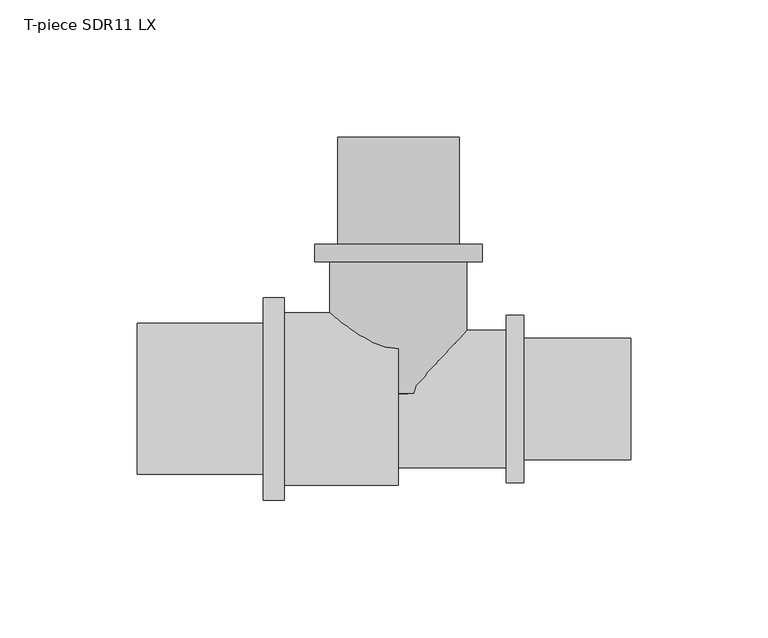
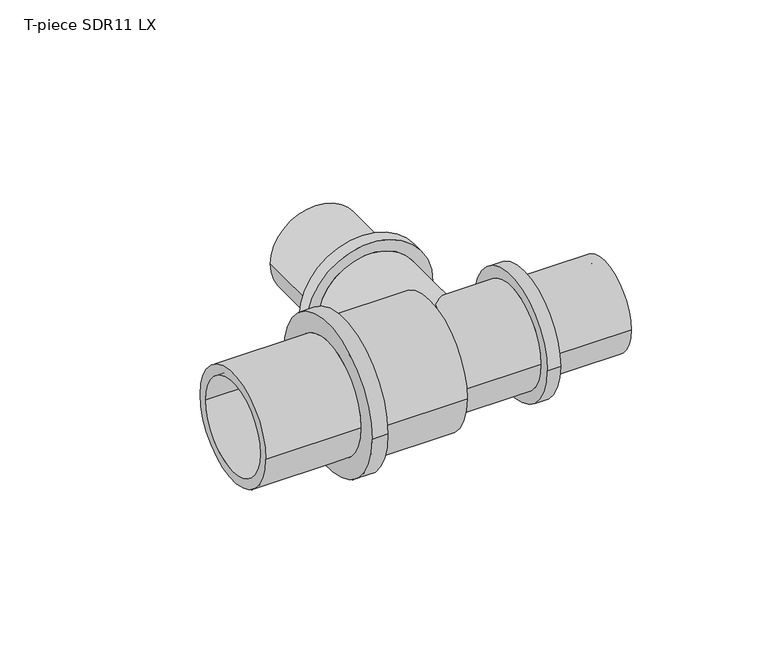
"""IFC4 building model written with IfcOpenShell, lengths in millimetres: pipe fitting geometry, T-piece SDR11 LX : T-piece LX SDR11 LX."""

from ifc_helpers import new_model, si_unit, point, frame, origin, place, context, project, spatial, polyline, circle_curve, ellipse_curve, trimmed, source, transform, mapped, element, save
from ifc_brep_helpers import plane_surface, cylinder_surface, revolved_surface, advanced_brep


def t_piece_sdr11_lx_1707f27c(model_context):
    return source(origin(), model_context, "Body", "AdvancedBrep", [
        advanced_brep(
        [(25.0, 2.0160392, 0.0), (-25.0, 2.0160392, 0.0), (-25.0, 50.1, 0.0), (25.0, 50.1, 0.0), (17.75, 95.5, 0.0), (-17.75, 95.5, 0.0), (-17.75, 0.0, 0.0), (17.75, 0.0, 0.0), (22.15, 56.5, 0.0), (-22.15, 56.5, 0.0), (-22.15, 95.5, 0.0), (22.15, 95.5, 0.0), (30.5, 50.1, 0.0), (-30.5, 50.1, 0.0), (-30.5, 56.5, 0.0), (30.5, 56.5, 0.0)],
        [
            (0, 1, circle_curve(frame((0.0, 2.0160392, 0.0), z_axis=(0.0, 1.0, 0.0), x_axis=(-1.0, 0.0, 0.0)), 25.0)),
            (1, 2),
            (2, 3, circle_curve(frame((0.0, 50.1, 0.0), z_axis=(0.0, -1.0, 0.0), x_axis=(-1.0, 0.0, 0.0)), 25.0)),
            (3, 0),
            (4, 5, circle_curve(frame((0.0, 95.5, 0.0), z_axis=(0.0, 1.0, 0.0), x_axis=(-1.0, 0.0, 0.0)), 17.75)),
            (5, 6),
            (6, 7, circle_curve(frame((0.0, 0.0, 0.0), z_axis=(0.0, -1.0, 0.0), x_axis=(-1.0, 0.0, 0.0)), 17.75)),
            (7, 4),
            (8, 9, circle_curve(frame((0.0, 56.5, 0.0), z_axis=(0.0, 1.0, 0.0), x_axis=(-1.0, 0.0, 0.0)), 22.15)),
            (9, 10),
            (10, 11, circle_curve(frame((0.0, 95.5, 0.0), z_axis=(0.0, -1.0, 0.0), x_axis=(-1.0, 0.0, 0.0)), 22.15)),
            (11, 8),
            (12, 13, circle_curve(frame((0.0, 50.1, 0.0), z_axis=(0.0, 1.0, 0.0), x_axis=(-1.0, 0.0, 0.0)), 30.5)),
            (13, 14),
            (14, 15, circle_curve(frame((0.0, 56.5, 0.0), z_axis=(0.0, -1.0, 0.0), x_axis=(-1.0, 0.0, 0.0)), 30.5)),
            (15, 12),
            (12, 13, circle_curve(frame((0.0, 50.1, 0.0), z_axis=(0.0, -1.0, 0.0), x_axis=(1.0, 0.0, 0.0)), 30.5)),
            (2, 3, circle_curve(frame((0.0, 50.1, 0.0), z_axis=(0.0, 1.0, 0.0), x_axis=(1.0, 0.0, 0.0)), 25.0)),
            (1, 0, circle_curve(frame((0.0, 2.0160392, 0.0), z_axis=(0.0, 1.0, 0.0), x_axis=(1.0, 0.0, 0.0)), 25.0)),
            (5, 4, circle_curve(frame((0.0, 95.5, 0.0), z_axis=(0.0, 1.0, 0.0), x_axis=(1.0, 0.0, 0.0)), 17.75)),
            (7, 6, circle_curve(frame((0.0, 0.0, 0.0), z_axis=(0.0, -1.0, 0.0), x_axis=(1.0, 0.0, 0.0)), 17.75)),
            (10, 11, circle_curve(frame((0.0, 95.5, 0.0), z_axis=(0.0, 1.0, 0.0), x_axis=(1.0, 0.0, 0.0)), 22.15)),
            (9, 8, circle_curve(frame((0.0, 56.5, 0.0), z_axis=(0.0, 1.0, 0.0), x_axis=(1.0, 0.0, 0.0)), 22.15)),
            (14, 15, circle_curve(frame((0.0, 56.5, 0.0), z_axis=(0.0, 1.0, 0.0), x_axis=(1.0, 0.0, 0.0)), 30.5)),
            (6, 1, circle_curve(frame((-12.9962802, 31.1392381, 0.0), z_axis=(0.0, 0.0, -1.0), x_axis=(0.0, -1.0, 0.0)), 31.5)),
            (0, 7, circle_curve(frame((12.9962802, 31.1392381, 0.0), z_axis=(0.0, 0.0, -1.0), x_axis=(0.0, -1.0, 0.0)), 31.5)),
        ],
        [
            cylinder_surface(frame((0.0, 0.0, 0.0), z_axis=(0.0, -1.0, 0.0), x_axis=(-1.0, 0.0, 0.0)), 25.0),
            revolved_surface(polyline([(-17.75, 0.0, 0.0), (-17.75, 95.5, 0.0)]), (0.0, 0.0, 0.0), (0.0, -1.0, 0.0)),
            cylinder_surface(frame((0.0, 0.0, 0.0), z_axis=(0.0, -1.0, 0.0), x_axis=(-1.0, 0.0, 0.0)), 22.15),
            cylinder_surface(frame((0.0, 0.0, 0.0), z_axis=(0.0, -1.0, 0.0), x_axis=(-1.0, 0.0, 0.0)), 30.5),
            plane_surface(frame((0.0, 50.1, 0.0), z_axis=(0.0, -1.0, 0.0), x_axis=(1.0, 0.0, 0.0))),
            cylinder_surface(frame((0.0, 0.0, 0.0), z_axis=(0.0, -1.0, 0.0), x_axis=(1.0, 0.0, 0.0)), 25.0),
            revolved_surface(polyline([(17.75, 0.0, 0.0), (17.75, 95.5, 0.0)]), (0.0, 0.0, 0.0), (0.0, -1.0, 0.0)),
            plane_surface(frame((0.0, 95.5, 0.0), z_axis=(0.0, 1.0, 0.0), x_axis=(1.0, 0.0, 0.0))),
            cylinder_surface(frame((0.0, 0.0, 0.0), z_axis=(0.0, -1.0, 0.0), x_axis=(1.0, 0.0, 0.0)), 22.15),
            plane_surface(frame((0.0, 56.5, 0.0), z_axis=(0.0, 1.0, 0.0), x_axis=(1.0, 0.0, 0.0))),
            cylinder_surface(frame((0.0, 0.0, 0.0), z_axis=(0.0, -1.0, 0.0), x_axis=(1.0, 0.0, 0.0)), 30.5),
            revolved_surface(trimmed(ellipse_curve(frame((-12.9962802, 31.1392381, 0.0), z_axis=(0.0, 0.0, 1.0), x_axis=(0.0, -1.0, 0.0)), 31.5, 31.5), [point((-25.0, 2.0160392, 0.0))], [point((-17.75, 0.0, 0.0))], True, "CARTESIAN"), (0.0, 0.0, 0.0), (0.0, -1.0, 0.0)),
            revolved_surface(trimmed(ellipse_curve(frame((12.9962802, 31.1392381, 0.0), z_axis=(0.0, 0.0, -1.0), x_axis=(0.0, -1.0, 0.0)), 31.5, 31.5), [point((25.0, 2.0160392, 0.0))], [point((17.75, 0.0, 0.0))], True, "CARTESIAN"), (0.0, 0.0, 0.0), (0.0, -1.0, 0.0)),
        ],
        [
            (0, [[1, 2, 3, 4]]),
            (1, [[5, 6, 7, 8]]),
            (2, [[9, 10, 11, 12]]),
            (3, [[13, 14, 15, 16]]),
            (4, [[17, -13], [18, -3]]),
            (5, [[19, -4, -18, -2]]),
            (6, [[20, -8, 21, -6]]),
            (7, [[22, -11], [-20, -5]]),
            (8, [[23, -12, -22, -10]]),
            (9, [[24, -15], [-23, -9]]),
            (10, [[-17, -16, -24, -14]]),
            (11, [[-7, 25, -1, 26]]),
            (12, [[-21, -26, -19, -25]]),
        ],
    ),
        advanced_brep(
        [(39.4, 25.0, 0.0), (39.4, -25.0, 0.0), (0.0, -25.0, 0.0), (0.0, 25.0, 0.0), (0.0, 17.75, 0.0), (0.0, -17.75, 0.0), (84.8, -17.75, 0.0), (84.8, 17.75, 0.0), (84.8, 22.15, 0.0), (84.8, -22.15, 0.0), (45.8, -22.15, 0.0), (45.8, 22.15, 0.0), (45.8, 30.5, 0.0), (45.8, -30.5, 0.0), (39.4, -30.5, 0.0), (39.4, 30.5, 0.0)],
        [
            (0, 1, circle_curve(frame((39.4, 0.0, 0.0), z_axis=(-1.0, 0.0, 0.0), x_axis=(0.0, -1.0, 0.0)), 25.0)),
            (1, 2),
            (2, 3, circle_curve(frame((0.0, 0.0, 0.0), z_axis=(1.0, 0.0, 0.0), x_axis=(0.0, -1.0, 0.0)), 25.0)),
            (3, 0),
            (4, 5, circle_curve(frame((0.0, 0.0, 0.0), z_axis=(-1.0, 0.0, 0.0), x_axis=(0.0, -1.0, 0.0)), 17.75)),
            (5, 6),
            (6, 7, circle_curve(frame((84.8, 0.0, 0.0), z_axis=(1.0, 0.0, 0.0), x_axis=(0.0, -1.0, 0.0)), 17.75)),
            (7, 4),
            (8, 9, circle_curve(frame((84.8, 0.0, 0.0), z_axis=(-1.0, 0.0, 0.0), x_axis=(0.0, -1.0, 0.0)), 22.15)),
            (9, 10),
            (10, 11, circle_curve(frame((45.8, 0.0, 0.0), z_axis=(1.0, 0.0, 0.0), x_axis=(0.0, -1.0, 0.0)), 22.15)),
            (11, 8),
            (12, 13, circle_curve(frame((45.8, 0.0, 0.0), z_axis=(-1.0, 0.0, 0.0), x_axis=(0.0, -1.0, 0.0)), 30.5)),
            (13, 14),
            (14, 15, circle_curve(frame((39.4, 0.0, 0.0), z_axis=(1.0, 0.0, 0.0), x_axis=(0.0, -1.0, 0.0)), 30.5)),
            (15, 12),
            (14, 15, circle_curve(frame((39.4, 0.0, 0.0), z_axis=(-1.0, 0.0, 0.0), x_axis=(0.0, 1.0, 0.0)), 30.5)),
            (0, 1, circle_curve(frame((39.4, 0.0, 0.0), z_axis=(1.0, 0.0, 0.0), x_axis=(0.0, 1.0, 0.0)), 25.0)),
            (3, 2, circle_curve(frame((0.0, 0.0, 0.0), z_axis=(1.0, 0.0, 0.0), x_axis=(0.0, 1.0, 0.0)), 25.0)),
            (4, 5, circle_curve(frame((0.0, 0.0, 0.0), z_axis=(1.0, 0.0, 0.0), x_axis=(0.0, 1.0, 0.0)), 17.75)),
            (7, 6, circle_curve(frame((84.8, 0.0, 0.0), z_axis=(1.0, 0.0, 0.0), x_axis=(0.0, 1.0, 0.0)), 17.75)),
            (8, 9, circle_curve(frame((84.8, 0.0, 0.0), z_axis=(1.0, 0.0, 0.0), x_axis=(0.0, 1.0, 0.0)), 22.15)),
            (11, 10, circle_curve(frame((45.8, 0.0, 0.0), z_axis=(1.0, 0.0, 0.0), x_axis=(0.0, 1.0, 0.0)), 22.15)),
            (12, 13, circle_curve(frame((45.8, 0.0, 0.0), z_axis=(1.0, 0.0, 0.0), x_axis=(0.0, 1.0, 0.0)), 30.5)),
        ],
        [
            cylinder_surface(frame((0.0, 0.0, 0.0), z_axis=(1.0, 0.0, 0.0), x_axis=(0.0, -1.0, 0.0)), 25.0),
            revolved_surface(polyline([(84.8, -17.75, 0.0), (0.0, -17.75, 0.0)]), (0.0, 0.0, 0.0), (1.0, 0.0, 0.0)),
            cylinder_surface(frame((0.0, 0.0, 0.0), z_axis=(1.0, 0.0, 0.0), x_axis=(0.0, -1.0, 0.0)), 22.15),
            cylinder_surface(frame((0.0, 0.0, 0.0), z_axis=(1.0, 0.0, 0.0), x_axis=(0.0, -1.0, 0.0)), 30.5),
            plane_surface(frame((39.4, 0.0, 0.0), z_axis=(-1.0, 0.0, 0.0), x_axis=(0.0, 1.0, 0.0))),
            cylinder_surface(frame((0.0, 0.0, 0.0), z_axis=(1.0, 0.0, 0.0), x_axis=(0.0, 1.0, 0.0)), 25.0),
            plane_surface(frame((0.0, 0.0, 0.0), z_axis=(-1.0, 0.0, 0.0), x_axis=(0.0, 1.0, 0.0))),
            revolved_surface(polyline([(84.8, 17.75, 0.0), (0.0, 17.75, 0.0)]), (0.0, 0.0, 0.0), (1.0, 0.0, 0.0)),
            plane_surface(frame((84.8, 0.0, 0.0), z_axis=(1.0, 0.0, 0.0), x_axis=(0.0, 1.0, 0.0))),
            cylinder_surface(frame((0.0, 0.0, 0.0), z_axis=(1.0, 0.0, 0.0), x_axis=(0.0, 1.0, 0.0)), 22.15),
            plane_surface(frame((45.8, 0.0, 0.0), z_axis=(1.0, 0.0, 0.0), x_axis=(0.0, 1.0, 0.0))),
            cylinder_surface(frame((0.0, 0.0, 0.0), z_axis=(1.0, 0.0, 0.0), x_axis=(0.0, 1.0, 0.0)), 30.5),
        ],
        [
            (0, [[1, 2, 3, 4]]),
            (1, [[5, 6, 7, 8]]),
            (2, [[9, 10, 11, 12]]),
            (3, [[13, 14, 15, 16]]),
            (4, [[17, -15], [18, -1]]),
            (5, [[-18, -4, 19, -2]]),
            (6, [[-19, -3], [20, -5]]),
            (7, [[-20, -8, 21, -6]]),
            (8, [[22, -9], [-21, -7]]),
            (9, [[-22, -12, 23, -10]]),
            (10, [[24, -13], [-23, -11]]),
            (11, [[-24, -16, -17, -14]]),
        ],
    ),
        advanced_brep(
        [(0.0, 31.5, 0.0), (0.0, -31.5, 0.0), (-41.6, -31.5, 0.0), (-41.6, 31.5, 0.0), (-95.3, 22.75, 0.0), (-95.3, -22.75, 0.0), (0.0, -22.75, 0.0), (0.0, 22.75, 0.0), (-49.3, 27.55, 0.0), (-49.3, -27.55, 0.0), (-95.3, -27.55, 0.0), (-95.3, 27.55, 0.0), (-41.6, 37.0, 0.0), (-41.6, -37.0, 0.0), (-49.3, -37.0, 0.0), (-49.3, 37.0, 0.0)],
        [
            (0, 1, circle_curve(frame((0.0, 0.0, 0.0), z_axis=(-1.0, 0.0, 0.0), x_axis=(0.0, -1.0, 0.0)), 31.5)),
            (1, 2),
            (2, 3, circle_curve(frame((-41.6, 0.0, 0.0), z_axis=(1.0, 0.0, 0.0), x_axis=(0.0, -1.0, 0.0)), 31.5)),
            (3, 0),
            (4, 5, circle_curve(frame((-95.3, 0.0, 0.0), z_axis=(-1.0, 0.0, 0.0), x_axis=(0.0, -1.0, 0.0)), 22.75)),
            (5, 6),
            (6, 7, circle_curve(frame((0.0, 0.0, 0.0), z_axis=(1.0, 0.0, 0.0), x_axis=(0.0, -1.0, 0.0)), 22.75)),
            (7, 4),
            (8, 9, circle_curve(frame((-49.3, 0.0, 0.0), z_axis=(-1.0, 0.0, 0.0), x_axis=(0.0, -1.0, 0.0)), 27.55)),
            (9, 10),
            (10, 11, circle_curve(frame((-95.3, 0.0, 0.0), z_axis=(1.0, 0.0, 0.0), x_axis=(0.0, -1.0, 0.0)), 27.55)),
            (11, 8),
            (12, 13, circle_curve(frame((-41.6, 0.0, 0.0), z_axis=(-1.0, 0.0, 0.0), x_axis=(0.0, -1.0, 0.0)), 37.0)),
            (13, 14),
            (14, 15, circle_curve(frame((-49.3, 0.0, 0.0), z_axis=(1.0, 0.0, 0.0), x_axis=(0.0, -1.0, 0.0)), 37.0)),
            (15, 12),
            (12, 13, circle_curve(frame((-41.6, 0.0, 0.0), z_axis=(1.0, 0.0, 0.0), x_axis=(0.0, 1.0, 0.0)), 37.0)),
            (2, 3, circle_curve(frame((-41.6, 0.0, 0.0), z_axis=(-1.0, 0.0, 0.0), x_axis=(0.0, 1.0, 0.0)), 31.5)),
            (1, 0, circle_curve(frame((0.0, 0.0, 0.0), z_axis=(-1.0, 0.0, 0.0), x_axis=(0.0, 1.0, 0.0)), 31.5)),
            (6, 7, circle_curve(frame((0.0, 0.0, 0.0), z_axis=(-1.0, 0.0, 0.0), x_axis=(0.0, 1.0, 0.0)), 22.75)),
            (5, 4, circle_curve(frame((-95.3, 0.0, 0.0), z_axis=(-1.0, 0.0, 0.0), x_axis=(0.0, 1.0, 0.0)), 22.75)),
            (10, 11, circle_curve(frame((-95.3, 0.0, 0.0), z_axis=(-1.0, 0.0, 0.0), x_axis=(0.0, 1.0, 0.0)), 27.55)),
            (9, 8, circle_curve(frame((-49.3, 0.0, 0.0), z_axis=(-1.0, 0.0, 0.0), x_axis=(0.0, 1.0, 0.0)), 27.55)),
            (14, 15, circle_curve(frame((-49.3, 0.0, 0.0), z_axis=(-1.0, 0.0, 0.0), x_axis=(0.0, 1.0, 0.0)), 37.0)),
        ],
        [
            cylinder_surface(frame((0.0, 0.0, 0.0), z_axis=(1.0, 0.0, 0.0), x_axis=(0.0, -1.0, 0.0)), 31.5),
            revolved_surface(polyline([(0.0, -22.75, 0.0), (-95.3, -22.75, 0.0)]), (0.0, 0.0, 0.0), (1.0, 0.0, 0.0)),
            cylinder_surface(frame((0.0, 0.0, 0.0), z_axis=(1.0, 0.0, 0.0), x_axis=(0.0, -1.0, 0.0)), 27.55),
            cylinder_surface(frame((0.0, 0.0, 0.0), z_axis=(1.0, 0.0, 0.0), x_axis=(0.0, -1.0, 0.0)), 37.0),
            plane_surface(frame((-41.6, 0.0, 0.0), z_axis=(1.0, 0.0, 0.0), x_axis=(0.0, 1.0, 0.0))),
            cylinder_surface(frame((0.0, 0.0, 0.0), z_axis=(1.0, 0.0, 0.0), x_axis=(0.0, 1.0, 0.0)), 31.5),
            plane_surface(frame((0.0, 0.0, 0.0), z_axis=(1.0, 0.0, 0.0), x_axis=(0.0, 1.0, 0.0))),
            revolved_surface(polyline([(0.0, 22.75, 0.0), (-95.3, 22.75, 0.0)]), (0.0, 0.0, 0.0), (1.0, 0.0, 0.0)),
            plane_surface(frame((-95.3, 0.0, 0.0), z_axis=(-1.0, 0.0, 0.0), x_axis=(0.0, 1.0, 0.0))),
            cylinder_surface(frame((0.0, 0.0, 0.0), z_axis=(1.0, 0.0, 0.0), x_axis=(0.0, 1.0, 0.0)), 27.55),
            plane_surface(frame((-49.3, 0.0, 0.0), z_axis=(-1.0, 0.0, 0.0), x_axis=(0.0, 1.0, 0.0))),
            cylinder_surface(frame((0.0, 0.0, 0.0), z_axis=(1.0, 0.0, 0.0), x_axis=(0.0, 1.0, 0.0)), 37.0),
        ],
        [
            (0, [[1, 2, 3, 4]]),
            (1, [[5, 6, 7, 8]]),
            (2, [[9, 10, 11, 12]]),
            (3, [[13, 14, 15, 16]]),
            (4, [[17, -13], [18, -3]]),
            (5, [[19, -4, -18, -2]]),
            (6, [[-19, -1], [20, -7]]),
            (7, [[21, -8, -20, -6]]),
            (8, [[22, -11], [-21, -5]]),
            (9, [[23, -12, -22, -10]]),
            (10, [[24, -15], [-23, -9]]),
            (11, [[-17, -16, -24, -14]]),
        ],
    ),
    ])


if __name__ == "__main__":
    model = new_model("IFC4")
    model_context = context("Model", 3, world=origin())
    ifc_project = project(units=[si_unit("LENGTHUNIT", "METRE", prefix="MILLI")], contexts=[model_context])
    site = spatial("IfcSite", under=ifc_project)
    building = spatial("IfcBuilding", under=site)
    placement = place(None, origin())
    t_piece_sdr11_lx_shape = t_piece_sdr11_lx_1707f27c(model_context)
    element("IfcPipeFitting", 1, ObjectType="T-piece SDR11 LX : T-piece LX SDR11 LX", at=placement, inside=building, context=model_context, shape_type="MappedRepresentation", body=[
        mapped(t_piece_sdr11_lx_shape, transform((0.0, 0.0, 0.0), x_axis=(1.0, 0.0, 0.0), y_axis=(0.0, 1.0, 0.0), z_axis=(0.0, 0.0, 1.0))),
    ])
    save(model, "model.ifc")
